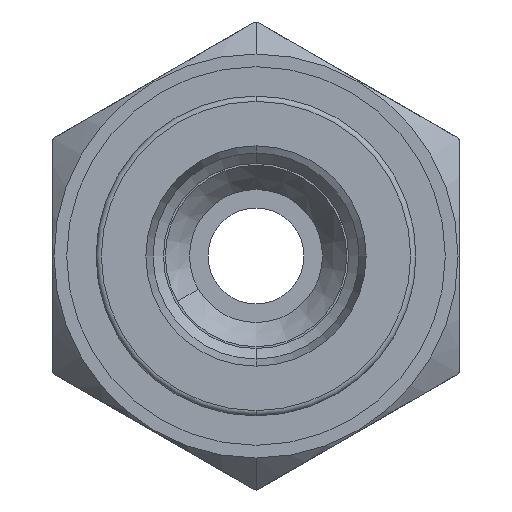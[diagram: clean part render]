
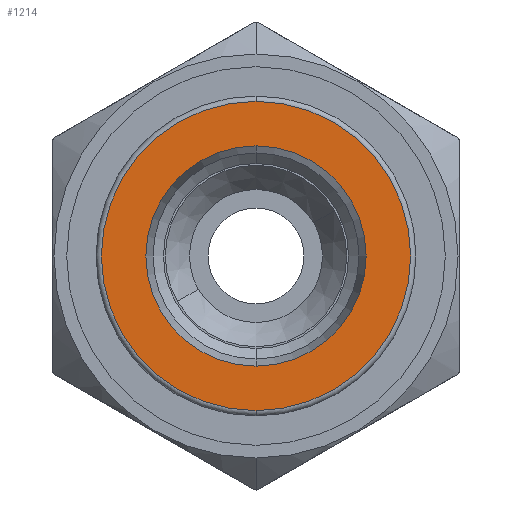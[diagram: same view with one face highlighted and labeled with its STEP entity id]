
A CAD part, front view. The second image highlights one B-rep face of the part: STEP entity #1214.
In plain terms, the highlighted planar face has unit normal (0, -1, 0).
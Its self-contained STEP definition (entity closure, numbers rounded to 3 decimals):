
#118 = ORIENTED_EDGE ( 'NONE', *, *, #1077, .F. ) ;
#185 = DIRECTION ( 'NONE',  ( 0., -1., 0. ) ) ;
#231 = DIRECTION ( 'NONE',  ( 0., -1., 0. ) ) ;
#299 = AXIS2_PLACEMENT_3D ( 'NONE', #2245, #231, #1374 ) ;
#399 = DIRECTION ( 'NONE',  ( 0., 1., 0. ) ) ;
#464 = EDGE_LOOP ( 'NONE', ( #118, #615 ) ) ;
#485 = DIRECTION ( 'NONE',  ( 0., -1., 0. ) ) ;
#560 = DIRECTION ( 'NONE',  ( 0., 0., 1. ) ) ;
#615 = ORIENTED_EDGE ( 'NONE', *, *, #1422, .F. ) ;
#619 = CIRCLE ( 'NONE', #1399, 10.325 ) ;
#645 = FACE_BOUND ( 'NONE', #464, .T. ) ;
#698 = VERTEX_POINT ( 'NONE', #1531 ) ;
#704 = EDGE_LOOP ( 'NONE', ( #2602, #2560 ) ) ;
#730 = CARTESIAN_POINT ( 'NONE',  ( 0., -38.848, -14.5 ) ) ;
#759 = CARTESIAN_POINT ( 'NONE',  ( 0., -38.848, 0. ) ) ;
#781 = CARTESIAN_POINT ( 'NONE',  ( 0., -38.848, 0. ) ) ;
#956 = CIRCLE ( 'NONE', #2564, 14.5 ) ;
#966 = PLANE ( 'NONE',  #2333 ) ;
#1024 = DIRECTION ( 'NONE',  ( 0., -1., 0. ) ) ;
#1061 = EDGE_CURVE ( 'NONE', #2436, #1783, #2998, .T. ) ;
#1077 = EDGE_CURVE ( 'NONE', #698, #2888, #619, .T. ) ;
#1214 = ADVANCED_FACE ( 'NONE', ( #3131, #645 ), #966, .F. ) ;
#1345 = EDGE_CURVE ( 'NONE', #1783, #2436, #956, .T. ) ;
#1374 = DIRECTION ( 'NONE',  ( 0., 0., -1. ) ) ;
#1399 = AXIS2_PLACEMENT_3D ( 'NONE', #781, #485, #1686 ) ;
#1422 = EDGE_CURVE ( 'NONE', #2888, #698, #3393, .T. ) ;
#1531 = CARTESIAN_POINT ( 'NONE',  ( 0., -38.848, -10.325 ) ) ;
#1577 = AXIS2_PLACEMENT_3D ( 'NONE', #2461, #185, #1646 ) ;
#1588 = CARTESIAN_POINT ( 'NONE',  ( 0., -38.848, 14.5 ) ) ;
#1646 = DIRECTION ( 'NONE',  ( 0., 0., 1. ) ) ;
#1686 = DIRECTION ( 'NONE',  ( 0., 0., -1. ) ) ;
#1783 = VERTEX_POINT ( 'NONE', #730 ) ;
#2245 = CARTESIAN_POINT ( 'NONE',  ( 0., -38.848, 0. ) ) ;
#2333 = AXIS2_PLACEMENT_3D ( 'NONE', #2374, #399, #560 ) ;
#2374 = CARTESIAN_POINT ( 'NONE',  ( 0., -38.848, 10.325 ) ) ;
#2436 = VERTEX_POINT ( 'NONE', #1588 ) ;
#2461 = CARTESIAN_POINT ( 'NONE',  ( 0., -38.848, 0. ) ) ;
#2560 = ORIENTED_EDGE ( 'NONE', *, *, #1345, .T. ) ;
#2564 = AXIS2_PLACEMENT_3D ( 'NONE', #759, #1024, #3292 ) ;
#2602 = ORIENTED_EDGE ( 'NONE', *, *, #1061, .T. ) ;
#2888 = VERTEX_POINT ( 'NONE', #3477 ) ;
#2998 = CIRCLE ( 'NONE', #1577, 14.5 ) ;
#3131 = FACE_OUTER_BOUND ( 'NONE', #704, .T. ) ;
#3292 = DIRECTION ( 'NONE',  ( 0., 0., 1. ) ) ;
#3393 = CIRCLE ( 'NONE', #299, 10.325 ) ;
#3477 = CARTESIAN_POINT ( 'NONE',  ( 0., -38.848, 10.325 ) ) ;
